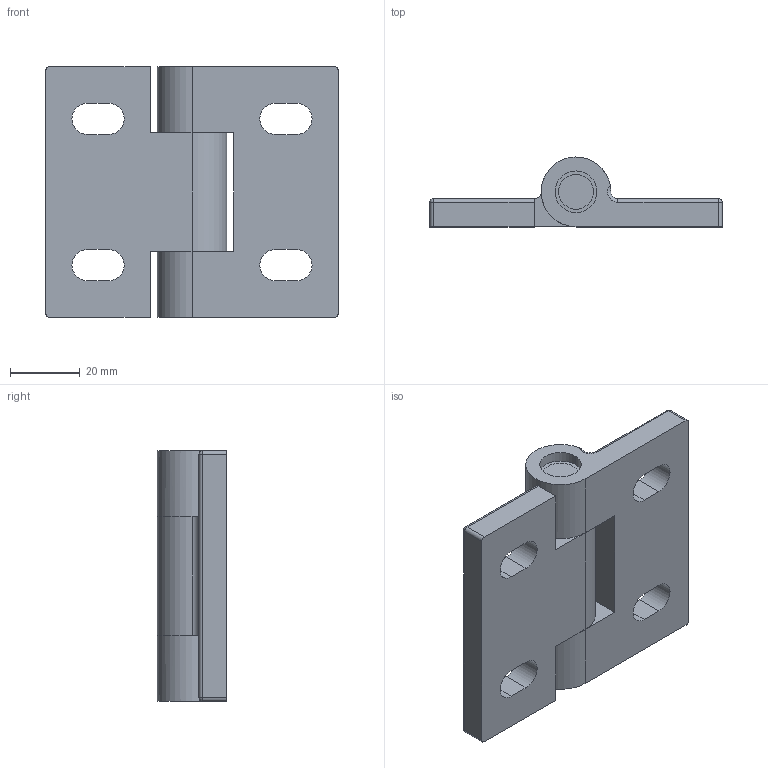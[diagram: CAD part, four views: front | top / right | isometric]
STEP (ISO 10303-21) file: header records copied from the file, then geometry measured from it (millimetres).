
FILE_DESCRIPTION (( 'STEP AP203' ), '1' );
FILE_NAME ('XG02-124.STEP', '2023-12-22T10:07:14', ( '' ), ( '' ), 'SwSTEP 2.0', 'SolidWorks 2020', '' );
FILE_SCHEMA (( 'CONFIG_CONTROL_DESIGN' ));
Length unit declared in the file: millimetre
Products named in the file (1): XG02-124
Bounding box: 84 x 20 x 72 mm (x, y, z)
Volume: 55431.4 mm3; surface area: 22200.5 mm2
Topology: 3 solids, 3 shells, 71 faces, 175 edges, 108 vertices
Faces by surface type: cylinder 36, plane 29, sphere 4, torus 2
Entity records: 2186 total; most frequent: DIRECTION 387, CARTESIAN_POINT 365, ORIENTED_EDGE 342, EDGE_CURVE 171, AXIS2_PLACEMENT_3D 146, VERTEX_POINT 108, LINE 95, VECTOR 95
